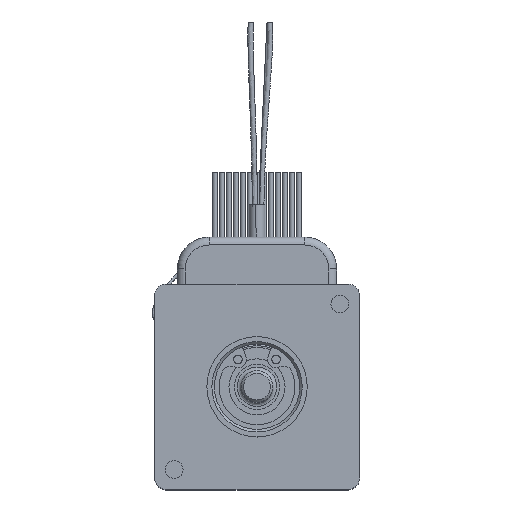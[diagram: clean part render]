
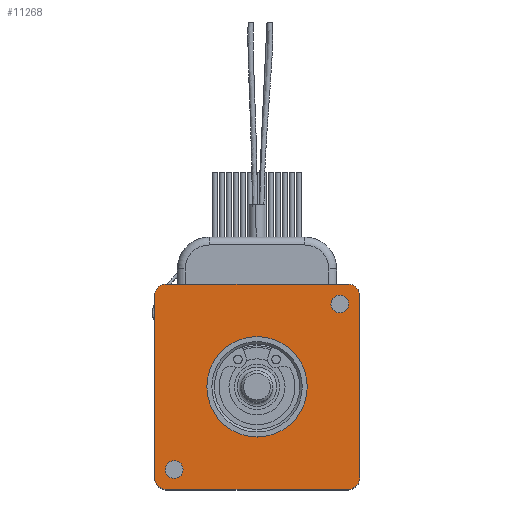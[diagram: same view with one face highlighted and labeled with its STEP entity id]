
A CAD part, top view. The second image highlights one B-rep face of the part: STEP entity #11268.
In plain terms, the highlighted planar face has unit normal (0, 0, 1).
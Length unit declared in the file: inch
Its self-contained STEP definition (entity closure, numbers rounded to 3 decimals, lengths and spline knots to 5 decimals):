
#10714=CARTESIAN_POINT('',(0.72,0.65,0.191));
#10715=VERTEX_POINT('',#10714);
#10716=CARTESIAN_POINT('',(0.65,0.65,0.191));
#10717=DIRECTION('',(0.0,0.0,-1.0));
#10718=DIRECTION('',(-1.0,0.0,0.0));
#10719=AXIS2_PLACEMENT_3D('',#10716,#10717,#10718);
#10720=CIRCLE('',#10719,0.07);
#10721=EDGE_CURVE('',#10715,#10715,#10720,.T.);
#10817=CARTESIAN_POINT('',(-0.58,-0.65,0.191));
#10818=VERTEX_POINT('',#10817);
#10819=CARTESIAN_POINT('',(-0.65,-0.65,0.191));
#10820=DIRECTION('',(0.0,0.0,-1.0));
#10821=DIRECTION('',(-1.0,0.0,0.0));
#10822=AXIS2_PLACEMENT_3D('',#10819,#10820,#10821);
#10823=CIRCLE('',#10822,0.07);
#10824=EDGE_CURVE('',#10818,#10818,#10823,.T.);
#11036=CARTESIAN_POINT('',(0.394,0.,0.191));
#11037=VERTEX_POINT('',#11036);
#11038=CARTESIAN_POINT('',(0.0,0.0,0.191));
#11039=DIRECTION('',(0.0,0.0,-1.0));
#11040=DIRECTION('',(-1.0,0.0,0.0));
#11041=AXIS2_PLACEMENT_3D('',#11038,#11039,#11040);
#11042=CIRCLE('',#11041,0.394);
#11043=EDGE_CURVE('',#11037,#11037,#11042,.T.);
#11054=CARTESIAN_POINT('',(0.715,0.805,0.191));
#11055=VERTEX_POINT('',#11054);
#11062=CARTESIAN_POINT('',(0.805,0.715,0.191));
#11063=VERTEX_POINT('',#11062);
#11064=CARTESIAN_POINT('',(0.715,0.715,0.191));
#11065=DIRECTION('',(0.0,0.0,-1.));
#11066=DIRECTION('',(0.707,0.707,0.0));
#11067=AXIS2_PLACEMENT_3D('',#11064,#11065,#11066);
#11068=CIRCLE('',#11067,0.09);
#11069=EDGE_CURVE('',#11055,#11063,#11068,.T.);
#11087=CARTESIAN_POINT('',(-0.715,0.805,0.191));
#11088=VERTEX_POINT('',#11087);
#11095=CARTESIAN_POINT('',(-0.715,0.805,0.191));
#11096=DIRECTION('',(1.0,0.0,0.0));
#11097=VECTOR('',#11096,1.43);
#11098=LINE('',#11095,#11097);
#11099=EDGE_CURVE('',#11088,#11055,#11098,.T.);
#11110=CARTESIAN_POINT('',(-0.715,-0.805,0.191));
#11111=VERTEX_POINT('',#11110);
#11118=CARTESIAN_POINT('',(-0.805,-0.715,0.191));
#11119=VERTEX_POINT('',#11118);
#11120=CARTESIAN_POINT('',(-0.715,-0.715,0.191));
#11121=DIRECTION('',(0.0,0.0,-1.));
#11122=DIRECTION('',(-0.707,-0.707,0.0));
#11123=AXIS2_PLACEMENT_3D('',#11120,#11121,#11122);
#11124=CIRCLE('',#11123,0.09);
#11125=EDGE_CURVE('',#11111,#11119,#11124,.T.);
#11143=CARTESIAN_POINT('',(0.715,-0.805,0.191));
#11144=VERTEX_POINT('',#11143);
#11151=CARTESIAN_POINT('',(0.715,-0.805,0.191));
#11152=DIRECTION('',(-1.0,0.0,0.0));
#11153=VECTOR('',#11152,1.43);
#11154=LINE('',#11151,#11153);
#11155=EDGE_CURVE('',#11144,#11111,#11154,.T.);
#11166=CARTESIAN_POINT('',(0.805,-0.715,0.191));
#11167=VERTEX_POINT('',#11166);
#11174=CARTESIAN_POINT('',(0.715,-0.715,0.191));
#11175=DIRECTION('',(0.0,0.0,-1.));
#11176=DIRECTION('',(0.707,-0.707,0.0));
#11177=AXIS2_PLACEMENT_3D('',#11174,#11175,#11176);
#11178=CIRCLE('',#11177,0.09);
#11179=EDGE_CURVE('',#11167,#11144,#11178,.T.);
#11191=CARTESIAN_POINT('',(0.805,0.715,0.191));
#11192=DIRECTION('',(0.0,-1.0,0.0));
#11193=VECTOR('',#11192,1.43);
#11194=LINE('',#11191,#11193);
#11195=EDGE_CURVE('',#11063,#11167,#11194,.T.);
#11207=CARTESIAN_POINT('',(-0.805,0.715,0.191));
#11208=VERTEX_POINT('',#11207);
#11209=CARTESIAN_POINT('',(-0.715,0.715,0.191));
#11210=DIRECTION('',(0.0,0.0,-1.));
#11211=DIRECTION('',(-0.707,0.707,0.0));
#11212=AXIS2_PLACEMENT_3D('',#11209,#11210,#11211);
#11213=CIRCLE('',#11212,0.09);
#11214=EDGE_CURVE('',#11208,#11088,#11213,.T.);
#11233=CARTESIAN_POINT('',(-0.805,-0.715,0.191));
#11234=DIRECTION('',(0.0,1.0,0.0));
#11235=VECTOR('',#11234,1.43);
#11236=LINE('',#11233,#11235);
#11237=EDGE_CURVE('',#11119,#11208,#11236,.T.);
#11244=CARTESIAN_POINT('',(0.,0.,0.191));
#11245=DIRECTION('',(0.0,0.0,1.0));
#11246=DIRECTION('',(1.0,0.0,0.0));
#11247=AXIS2_PLACEMENT_3D('',#11244,#11245,#11246);
#11248=PLANE('',#11247);
#11249=ORIENTED_EDGE('',*,*,#11069,.F.);
#11250=ORIENTED_EDGE('',*,*,#11099,.F.);
#11251=ORIENTED_EDGE('',*,*,#11214,.F.);
#11252=ORIENTED_EDGE('',*,*,#11237,.F.);
#11253=ORIENTED_EDGE('',*,*,#11125,.F.);
#11254=ORIENTED_EDGE('',*,*,#11155,.F.);
#11255=ORIENTED_EDGE('',*,*,#11179,.F.);
#11256=ORIENTED_EDGE('',*,*,#11195,.F.);
#11257=EDGE_LOOP('',(#11249,#11250,#11251,#11252,#11253,#11254,#11255,#11256));
#11258=FACE_OUTER_BOUND('',#11257,.T.);
#11259=ORIENTED_EDGE('',*,*,#10721,.T.);
#11260=EDGE_LOOP('',(#11259));
#11261=FACE_BOUND('',#11260,.T.);
#11262=ORIENTED_EDGE('',*,*,#10824,.T.);
#11263=EDGE_LOOP('',(#11262));
#11264=FACE_BOUND('',#11263,.T.);
#11265=ORIENTED_EDGE('',*,*,#11043,.T.);
#11266=EDGE_LOOP('',(#11265));
#11267=FACE_BOUND('',#11266,.T.);
#11268=ADVANCED_FACE('',(#11258,#11261,#11264,#11267),#11248,.T.);
